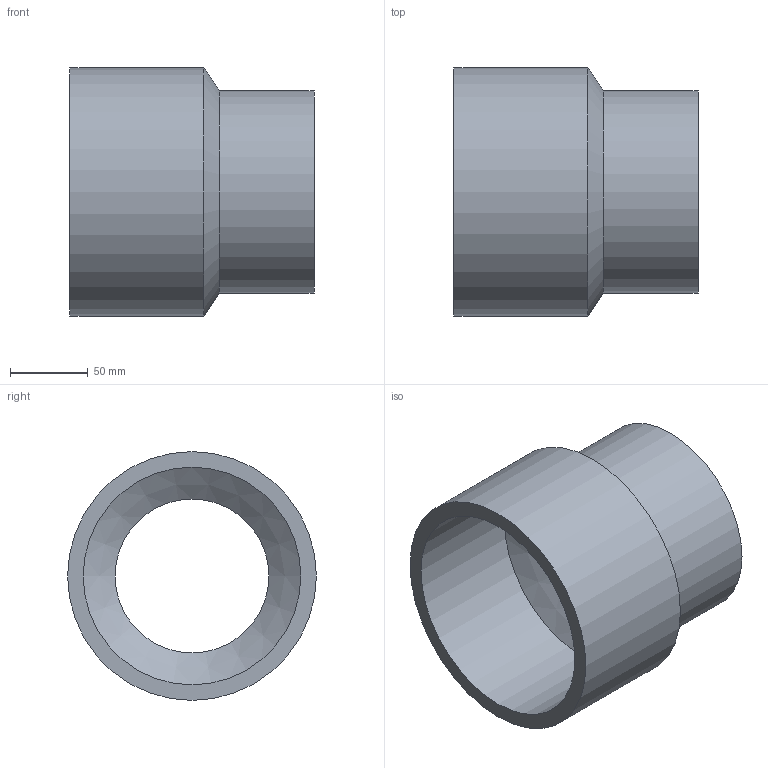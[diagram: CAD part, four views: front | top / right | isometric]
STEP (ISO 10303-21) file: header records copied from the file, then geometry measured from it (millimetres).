
FILE_DESCRIPTION(/* description */ ('PLASSON REDUCING SOCKET M.F.160(140)110 CEMENTED'),/* implementation_level */ '2;1');
FILE_NAME(/* name */ 'C:\Dropbox\KIMPROJECTS-Inventor\99-16-3568-Processing\PVC Catalog 2017\050200\050200160110.ipt.stp',/* time_stamp */ '2017-12-07T15:53:01+02:00',/* author */ ('KIM'),/* organization */ (''),/* preprocessor_version */ 'ST-DEVELOPER v15.6',/* originating_system */ 'Autodesk Inventor 2015',/* authorisation */ '');
FILE_SCHEMA (('AUTOMOTIVE_DESIGN { 1 0 10303 214 3 1 1 }'));
Length unit declared in the file: millimetre
Products named in the file (1): 050200160110
Bounding box: 157 x 160 x 160 mm (x, y, z)
Volume: 751350.5 mm3; surface area: 152367.3 mm2
Topology: 1 solids, 1 shells, 10 faces, 17 edges, 10 vertices
Faces by surface type: cylinder 5, plane 3, cone 2
Full cylindrical faces by diameter (mm): 99 x1, 110 x1, 130 x1, 140 x1, 160 x1
Entity records: 232 total; most frequent: DIRECTION 42, CARTESIAN_POINT 31, AXIS2_PLACEMENT_3D 21, EDGE_LOOP 20, ORIENTED_EDGE 20, FACE_BOUND 10, FACE_OUTER_BOUND 10, CIRCLE 10
